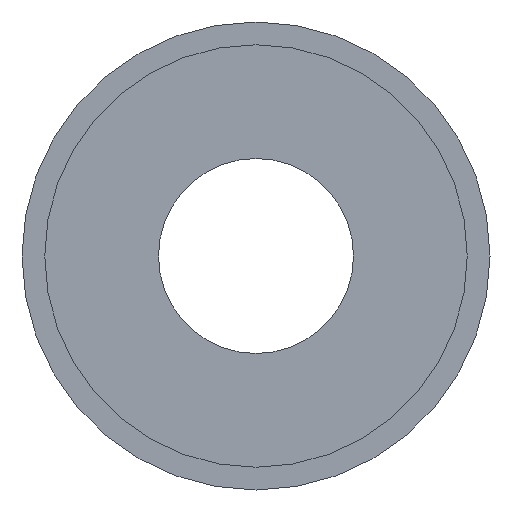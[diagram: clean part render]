
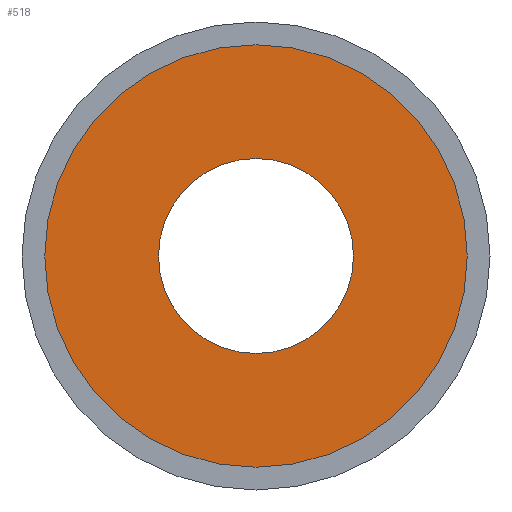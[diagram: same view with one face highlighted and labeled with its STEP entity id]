
A CAD part, front view. The second image highlights one B-rep face of the part: STEP entity #518.
In plain terms, the highlighted planar face has unit normal (0, -1, 0).
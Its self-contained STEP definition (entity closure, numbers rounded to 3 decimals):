
#6 = AXIS2_PLACEMENT_3D ( 'NONE', #1950, #47, #1969 ) ;
#47 = DIRECTION ( 'NONE',  ( 0., -1., 0. ) ) ;
#131 = VERTEX_POINT ( 'NONE', #2191 ) ;
#168 = DIRECTION ( 'NONE',  ( 0., -1., 0. ) ) ;
#187 = CARTESIAN_POINT ( 'NONE',  ( 0., -15., -32.5 ) ) ;
#240 = CARTESIAN_POINT ( 'NONE',  ( 0., -15., 15. ) ) ;
#323 = EDGE_CURVE ( 'NONE', #1266, #1695, #1130, .T. ) ;
#365 = EDGE_CURVE ( 'NONE', #1695, #1266, #1221, .T. ) ;
#373 = VERTEX_POINT ( 'NONE', #187 ) ;
#425 = PLANE ( 'NONE',  #2350 ) ;
#457 = ORIENTED_EDGE ( 'NONE', *, *, #365, .F. ) ;
#518 = ADVANCED_FACE ( 'NONE', ( #1688, #575 ), #425, .F. ) ;
#555 = CARTESIAN_POINT ( 'NONE',  ( 0., -15., 0. ) ) ;
#575 = FACE_OUTER_BOUND ( 'NONE', #813, .T. ) ;
#742 = DIRECTION ( 'NONE',  ( 0., -1., 0. ) ) ;
#760 = AXIS2_PLACEMENT_3D ( 'NONE', #555, #742, #1721 ) ;
#782 = DIRECTION ( 'NONE',  ( 0., 0., 1. ) ) ;
#813 = EDGE_LOOP ( 'NONE', ( #1134, #2436 ) ) ;
#961 = AXIS2_PLACEMENT_3D ( 'NONE', #1569, #1191, #2157 ) ;
#963 = ORIENTED_EDGE ( 'NONE', *, *, #323, .F. ) ;
#1053 = EDGE_CURVE ( 'NONE', #131, #373, #1503, .T. ) ;
#1130 = CIRCLE ( 'NONE', #1891, 15. ) ;
#1134 = ORIENTED_EDGE ( 'NONE', *, *, #1974, .T. ) ;
#1191 = DIRECTION ( 'NONE',  ( 0., -1., 0. ) ) ;
#1221 = CIRCLE ( 'NONE', #760, 15. ) ;
#1266 = VERTEX_POINT ( 'NONE', #1932 ) ;
#1464 = CIRCLE ( 'NONE', #6, 32.5 ) ;
#1478 = CARTESIAN_POINT ( 'NONE',  ( 0., -15., 15. ) ) ;
#1503 = CIRCLE ( 'NONE', #961, 32.5 ) ;
#1569 = CARTESIAN_POINT ( 'NONE',  ( 0., -15., 0. ) ) ;
#1688 = FACE_BOUND ( 'NONE', #1887, .T. ) ;
#1695 = VERTEX_POINT ( 'NONE', #1478 ) ;
#1721 = DIRECTION ( 'NONE',  ( 0., 0., -1. ) ) ;
#1759 = DIRECTION ( 'NONE',  ( 0., 1., 0. ) ) ;
#1887 = EDGE_LOOP ( 'NONE', ( #963, #457 ) ) ;
#1891 = AXIS2_PLACEMENT_3D ( 'NONE', #2260, #168, #2445 ) ;
#1932 = CARTESIAN_POINT ( 'NONE',  ( 0., -15., -15. ) ) ;
#1950 = CARTESIAN_POINT ( 'NONE',  ( 0., -15., 0. ) ) ;
#1969 = DIRECTION ( 'NONE',  ( 0., 0., -1. ) ) ;
#1974 = EDGE_CURVE ( 'NONE', #373, #131, #1464, .T. ) ;
#2157 = DIRECTION ( 'NONE',  ( 0., 0., -1. ) ) ;
#2191 = CARTESIAN_POINT ( 'NONE',  ( 0., -15., 32.5 ) ) ;
#2260 = CARTESIAN_POINT ( 'NONE',  ( 0., -15., 0. ) ) ;
#2350 = AXIS2_PLACEMENT_3D ( 'NONE', #240, #1759, #782 ) ;
#2436 = ORIENTED_EDGE ( 'NONE', *, *, #1053, .T. ) ;
#2445 = DIRECTION ( 'NONE',  ( 0., 0., -1. ) ) ;
